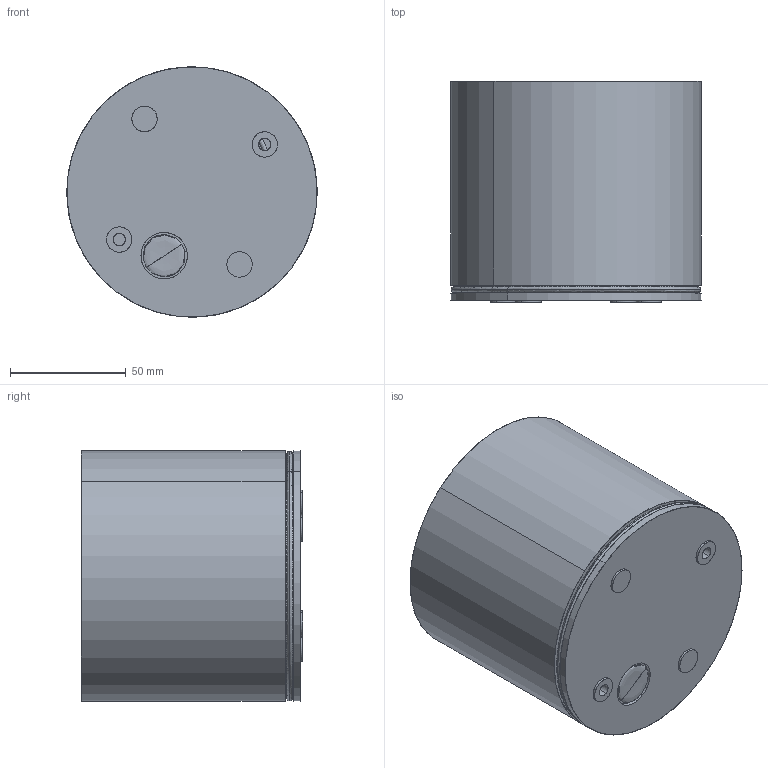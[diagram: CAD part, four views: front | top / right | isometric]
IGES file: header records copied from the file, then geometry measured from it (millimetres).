
Start section: SolidWorks IGES file using analytic representation for surfaces
Global section: file name: F:\GABRYSIA\MODELE 3D\HEXA_9564_9565_WWW\HEXA_9564_9565.IGS; native system: SolidWorks 2017; preprocessor: SolidWorks 2017; author: Togambi; date: 200710.125755; units: millimetre
Bounding box: 107.99 x 95.57 x 107.99 mm (x, y, z)
Surface area: 136468.8 mm2 (no closed solid volume)
Topology: 0 solids, 0 shells, 256 faces, 6249 edges, 6245 vertices
Faces by surface type: revolution 149, bspline 107
